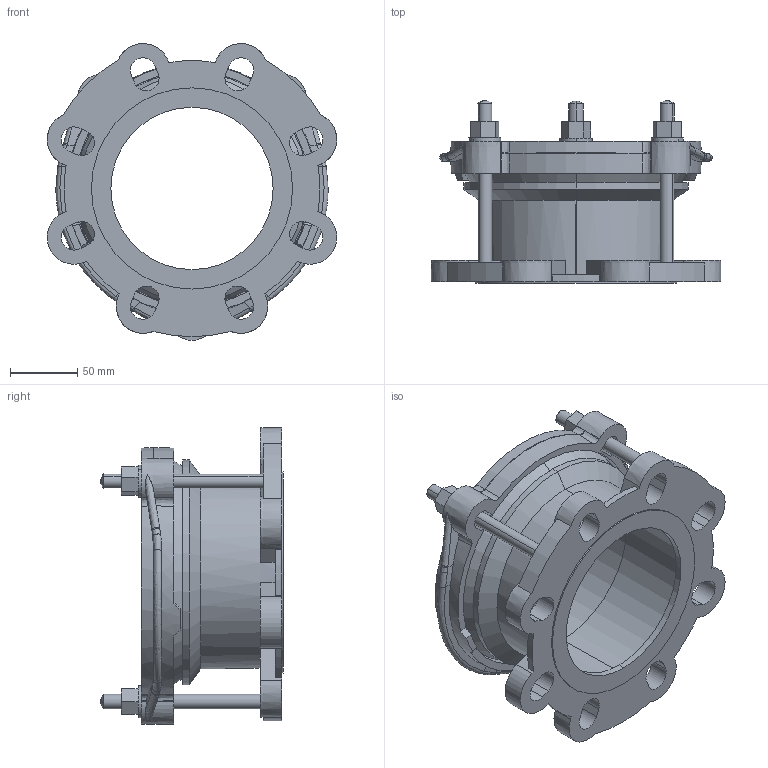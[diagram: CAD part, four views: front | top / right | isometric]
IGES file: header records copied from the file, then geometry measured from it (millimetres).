
Start section:  PTC IGES file: maxidaptor_107-132_alt.igs
Global section: file name: maxidaptor_107-132_alt.igs; native system: Creo Parametric by PTC Inc.; preprocessor: 2016130; author: MReader; organization: Unknown; date: 20181005.104509; units: millimetre
Bounding box: 216 x 136 x 221.25 mm (x, y, z)
Surface area: 229908.2 mm2 (no closed solid volume)
Topology: 0 solids, 0 shells, 259 faces, 1382 edges, 1376 vertices
Faces by surface type: bspline 149, revolution 110
